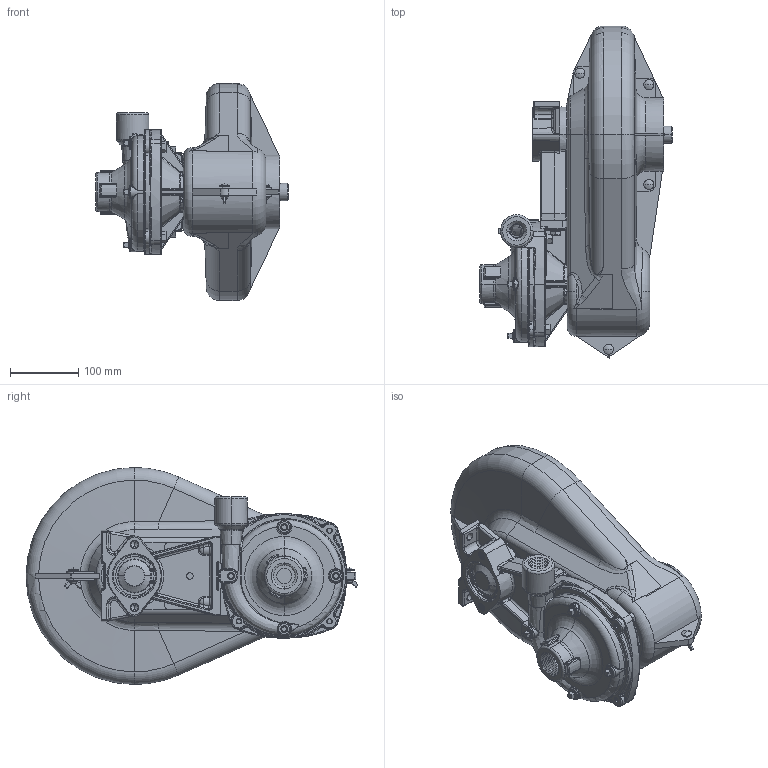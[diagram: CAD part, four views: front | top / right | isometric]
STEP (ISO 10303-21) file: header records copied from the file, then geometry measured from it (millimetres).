
FILE_DESCRIPTION (( 'STEP AP203' ), '1' );
FILE_NAME ('9402C-540S.step', '2013-09-18T21:38:04', ( '' ), ( '' ), 'SwSTEP 2.0', 'SolidWorks 2012', '' );
FILE_SCHEMA (( 'CONFIG_CONTROL_DESIGN' ));
Length unit declared in the file: inch
Products named in the file (1): 9402C-540S
Bounding box: 281.51 x 485.7 x 317.5 mm (x, y, z)
Volume: 2615143.8 mm3; surface area: 962713.1 mm2
Topology: 1 solids, 81 shells, 3719 faces, 8909 edges, 5246 vertices
Faces by surface type: cone 1197, plane 874, cylinder 683, bspline 552, torus 376, sphere 37
Entity records: 135917 total; most frequent: CARTESIAN_POINT 53321, ORIENTED_EDGE 17708, DIRECTION 16900, EDGE_CURVE 8854, AXIS2_PLACEMENT_3D 6650, VERTEX_POINT 5239, EDGE_LOOP 3879, FACE_OUTER_BOUND 3719
